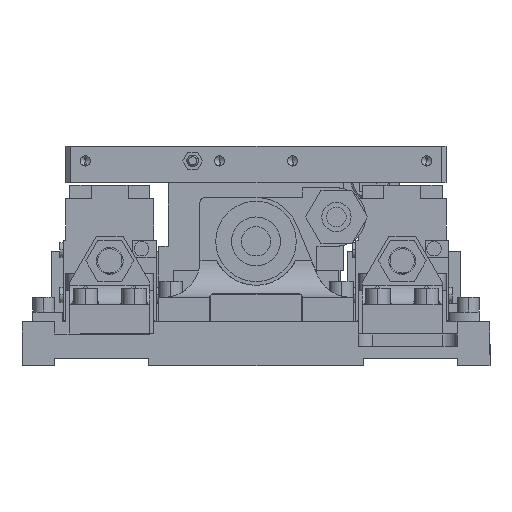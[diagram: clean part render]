
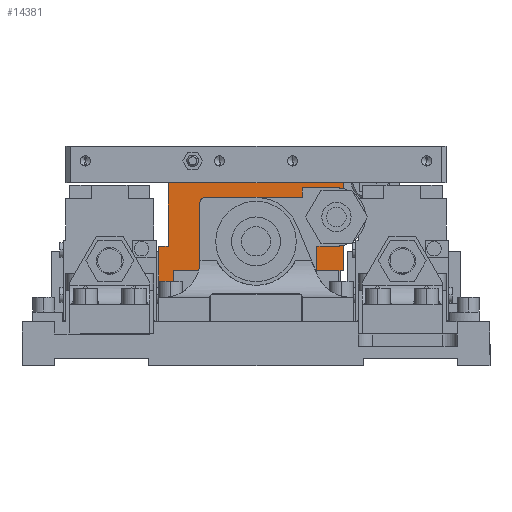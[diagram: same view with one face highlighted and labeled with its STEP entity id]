
A CAD part, left-side view. The second image highlights one B-rep face of the part: STEP entity #14381.
In plain terms, the highlighted planar face has unit normal (-1, 0, 0).
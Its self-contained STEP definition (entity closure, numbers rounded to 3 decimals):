
#59 = CARTESIAN_POINT ( 'NONE',  ( -20.5, -21.5, -9. ) ) ;
#96 = ORIENTED_EDGE ( 'NONE', *, *, #1921, .T. ) ;
#216 = ORIENTED_EDGE ( 'NONE', *, *, #6040, .T. ) ;
#340 = LINE ( 'NONE', #8912, #32822 ) ;
#773 = CARTESIAN_POINT ( 'NONE',  ( -20.5, -36., -36. ) ) ;
#1526 = CARTESIAN_POINT ( 'NONE',  ( -20.5, -36., -36. ) ) ;
#1694 = VERTEX_POINT ( 'NONE', #59 ) ;
#1921 = EDGE_CURVE ( 'NONE', #30607, #28783, #27041, .T. ) ;
#2171 = ORIENTED_EDGE ( 'NONE', *, *, #5081, .T. ) ;
#2583 = VERTEX_POINT ( 'NONE', #10728 ) ;
#3257 = EDGE_CURVE ( 'NONE', #33260, #24545, #340, .T. ) ;
#3991 = VERTEX_POINT ( 'NONE', #13642 ) ;
#5081 = EDGE_CURVE ( 'NONE', #24545, #1694, #22765, .T. ) ;
#5216 = ORIENTED_EDGE ( 'NONE', *, *, #29746, .F. ) ;
#5269 = DIRECTION ( 'NONE',  ( 0., 0., 1. ) ) ;
#5426 = LINE ( 'NONE', #16376, #23347 ) ;
#5500 = EDGE_CURVE ( 'NONE', #11938, #5804, #34722, .T. ) ;
#5804 = VERTEX_POINT ( 'NONE', #26565 ) ;
#6040 = EDGE_CURVE ( 'NONE', #3991, #35354, #19643, .T. ) ;
#6057 = DIRECTION ( 'NONE',  ( 0., -1., 0. ) ) ;
#6175 = EDGE_CURVE ( 'NONE', #19035, #33260, #15517, .T. ) ;
#6858 = AXIS2_PLACEMENT_3D ( 'NONE', #25267, #36722, #11111 ) ;
#7073 = EDGE_CURVE ( 'NONE', #30607, #35354, #33843, .T. ) ;
#8179 = CARTESIAN_POINT ( 'NONE',  ( -20.5, 34., -36. ) ) ;
#8637 = EDGE_CURVE ( 'NONE', #3991, #15640, #24377, .T. ) ;
#8912 = CARTESIAN_POINT ( 'NONE',  ( -20.5, -23.5, -20. ) ) ;
#9026 = CARTESIAN_POINT ( 'NONE',  ( -20.5, 36., -36. ) ) ;
#9072 = EDGE_CURVE ( 'NONE', #36940, #2583, #11050, .T. ) ;
#9896 = VECTOR ( 'NONE', #19529, 1000. ) ;
#9933 = LINE ( 'NONE', #10297, #21581 ) ;
#10295 = ORIENTED_EDGE ( 'NONE', *, *, #6175, .T. ) ;
#10297 = CARTESIAN_POINT ( 'NONE',  ( -20.5, 40., -26. ) ) ;
#10728 = CARTESIAN_POINT ( 'NONE',  ( -20.5, 9.5, -24. ) ) ;
#10805 = VERTEX_POINT ( 'NONE', #36834 ) ;
#10883 = DIRECTION ( 'NONE',  ( -1., 0., 0. ) ) ;
#11047 = CARTESIAN_POINT ( 'NONE',  ( -20.5, -23.5, -9. ) ) ;
#11050 = CIRCLE ( 'NONE', #6858, 9.5 ) ;
#11111 = DIRECTION ( 'NONE',  ( 0., 1., 0. ) ) ;
#11938 = VERTEX_POINT ( 'NONE', #13424 ) ;
#12558 = EDGE_LOOP ( 'NONE', ( #36660, #19592, #30821, #31442, #13640, #16105, #216, #17556, #96 ) ) ;
#13406 = FACE_BOUND ( 'NONE', #21109, .T. ) ;
#13420 = ORIENTED_EDGE ( 'NONE', *, *, #3257, .T. ) ;
#13424 = CARTESIAN_POINT ( 'NONE',  ( -20.5, 40., -26. ) ) ;
#13640 = ORIENTED_EDGE ( 'NONE', *, *, #30090, .T. ) ;
#13642 = CARTESIAN_POINT ( 'NONE',  ( -20.5, 34., -36. ) ) ;
#13851 = LINE ( 'NONE', #11047, #24952 ) ;
#14381 = ADVANCED_FACE ( 'NONE', ( #23498, #13406, #22166 ), #30774, .F. ) ;
#15064 = CARTESIAN_POINT ( 'NONE',  ( -20.5, 40., -26. ) ) ;
#15156 = CARTESIAN_POINT ( 'NONE',  ( -20.5, -23.5, -9. ) ) ;
#15517 = LINE ( 'NONE', #15156, #35965 ) ;
#15561 = ORIENTED_EDGE ( 'NONE', *, *, #9072, .F. ) ;
#15640 = VERTEX_POINT ( 'NONE', #18203 ) ;
#15816 = CARTESIAN_POINT ( 'NONE',  ( -20.5, 36., -36. ) ) ;
#15884 = CARTESIAN_POINT ( 'NONE',  ( -20.5, -23.5, -9. ) ) ;
#16105 = ORIENTED_EDGE ( 'NONE', *, *, #8637, .F. ) ;
#16376 = CARTESIAN_POINT ( 'NONE',  ( -20.5, 40., -42. ) ) ;
#16458 = LINE ( 'NONE', #19069, #17366 ) ;
#16823 = DIRECTION ( 'NONE',  ( 0., 1., 0. ) ) ;
#17366 = VECTOR ( 'NONE', #30286, 1000. ) ;
#17375 = VECTOR ( 'NONE', #35693, 1000. ) ;
#17556 = ORIENTED_EDGE ( 'NONE', *, *, #7073, .F. ) ;
#17662 = CARTESIAN_POINT ( 'NONE',  ( -20.5, 36., 0. ) ) ;
#18203 = CARTESIAN_POINT ( 'NONE',  ( -20.5, 34., -42. ) ) ;
#19035 = VERTEX_POINT ( 'NONE', #15884 ) ;
#19069 = CARTESIAN_POINT ( 'NONE',  ( -20.5, 36., -36. ) ) ;
#19072 = EDGE_LOOP ( 'NONE', ( #2171, #19646, #10295, #13420 ) ) ;
#19529 = DIRECTION ( 'NONE',  ( 0., 0., -1. ) ) ;
#19592 = ORIENTED_EDGE ( 'NONE', *, *, #34252, .F. ) ;
#19643 = LINE ( 'NONE', #9026, #26941 ) ;
#19646 = ORIENTED_EDGE ( 'NONE', *, *, #26347, .T. ) ;
#20275 = VECTOR ( 'NONE', #5269, 1000. ) ;
#20371 = CIRCLE ( 'NONE', #23924, 9.5 ) ;
#21109 = EDGE_LOOP ( 'NONE', ( #5216, #15561 ) ) ;
#21431 = VECTOR ( 'NONE', #29607, 1000. ) ;
#21492 = CARTESIAN_POINT ( 'NONE',  ( -20.5, 0., -24. ) ) ;
#21538 = VECTOR ( 'NONE', #34167, 1000. ) ;
#21581 = VECTOR ( 'NONE', #21651, 1000. ) ;
#21651 = DIRECTION ( 'NONE',  ( 0., 0., 1. ) ) ;
#22166 = FACE_OUTER_BOUND ( 'NONE', #12558, .T. ) ;
#22765 = LINE ( 'NONE', #25009, #20275 ) ;
#23347 = VECTOR ( 'NONE', #33790, 1000. ) ;
#23498 = FACE_BOUND ( 'NONE', #19072, .T. ) ;
#23924 = AXIS2_PLACEMENT_3D ( 'NONE', #21492, #10883, #33285 ) ;
#24377 = LINE ( 'NONE', #8179, #9896 ) ;
#24392 = DIRECTION ( 'NONE',  ( 0., 1., 0. ) ) ;
#24545 = VERTEX_POINT ( 'NONE', #35218 ) ;
#24952 = VECTOR ( 'NONE', #30831, 1000. ) ;
#25009 = CARTESIAN_POINT ( 'NONE',  ( -20.5, -21.5, -9. ) ) ;
#25267 = CARTESIAN_POINT ( 'NONE',  ( -20.5, 0., -24. ) ) ;
#26008 = CARTESIAN_POINT ( 'NONE',  ( -20.5, 40., -42. ) ) ;
#26347 = EDGE_CURVE ( 'NONE', #1694, #19035, #13851, .T. ) ;
#26565 = CARTESIAN_POINT ( 'NONE',  ( -20.5, 36., -26. ) ) ;
#26616 = LINE ( 'NONE', #17662, #21431 ) ;
#26868 = EDGE_CURVE ( 'NONE', #28783, #10805, #26616, .T. ) ;
#26941 = VECTOR ( 'NONE', #6057, 1000. ) ;
#27041 = LINE ( 'NONE', #1526, #17375 ) ;
#28574 = VERTEX_POINT ( 'NONE', #26008 ) ;
#28783 = VERTEX_POINT ( 'NONE', #32727 ) ;
#29161 = DIRECTION ( 'NONE',  ( 0., 0., -1. ) ) ;
#29607 = DIRECTION ( 'NONE',  ( 0., 1., 0. ) ) ;
#29746 = EDGE_CURVE ( 'NONE', #2583, #36940, #20371, .T. ) ;
#30090 = EDGE_CURVE ( 'NONE', #28574, #15640, #5426, .T. ) ;
#30286 = DIRECTION ( 'NONE',  ( 0., 0., 1. ) ) ;
#30380 = EDGE_CURVE ( 'NONE', #28574, #11938, #9933, .T. ) ;
#30607 = VERTEX_POINT ( 'NONE', #773 ) ;
#30774 = PLANE ( 'NONE',  #34571 ) ;
#30821 = ORIENTED_EDGE ( 'NONE', *, *, #5500, .F. ) ;
#30831 = DIRECTION ( 'NONE',  ( 0., -1., 0. ) ) ;
#31028 = CARTESIAN_POINT ( 'NONE',  ( -20.5, 36., -36. ) ) ;
#31442 = ORIENTED_EDGE ( 'NONE', *, *, #30380, .F. ) ;
#32051 = DIRECTION ( 'NONE',  ( 0., 1., 0. ) ) ;
#32237 = CARTESIAN_POINT ( 'NONE',  ( -20.5, -9.5, -24. ) ) ;
#32727 = CARTESIAN_POINT ( 'NONE',  ( -20.5, -36., 0. ) ) ;
#32822 = VECTOR ( 'NONE', #32051, 1000. ) ;
#33059 = VECTOR ( 'NONE', #16823, 1000. ) ;
#33260 = VERTEX_POINT ( 'NONE', #35291 ) ;
#33285 = DIRECTION ( 'NONE',  ( 0., 1., 0. ) ) ;
#33790 = DIRECTION ( 'NONE',  ( 0., -1., 0. ) ) ;
#33843 = LINE ( 'NONE', #31028, #33059 ) ;
#33865 = CARTESIAN_POINT ( 'NONE',  ( -20.5, -34., -36. ) ) ;
#34167 = DIRECTION ( 'NONE',  ( 0., -1., 0. ) ) ;
#34252 = EDGE_CURVE ( 'NONE', #5804, #10805, #16458, .T. ) ;
#34571 = AXIS2_PLACEMENT_3D ( 'NONE', #15816, #36032, #24392 ) ;
#34722 = LINE ( 'NONE', #15064, #21538 ) ;
#35218 = CARTESIAN_POINT ( 'NONE',  ( -20.5, -21.5, -20. ) ) ;
#35291 = CARTESIAN_POINT ( 'NONE',  ( -20.5, -23.5, -20. ) ) ;
#35354 = VERTEX_POINT ( 'NONE', #33865 ) ;
#35693 = DIRECTION ( 'NONE',  ( 0., 0., 1. ) ) ;
#35965 = VECTOR ( 'NONE', #29161, 1000. ) ;
#36032 = DIRECTION ( 'NONE',  ( 1., 0., 0. ) ) ;
#36660 = ORIENTED_EDGE ( 'NONE', *, *, #26868, .T. ) ;
#36722 = DIRECTION ( 'NONE',  ( -1., 0., 0. ) ) ;
#36834 = CARTESIAN_POINT ( 'NONE',  ( -20.5, 36., 0. ) ) ;
#36940 = VERTEX_POINT ( 'NONE', #32237 ) ;
